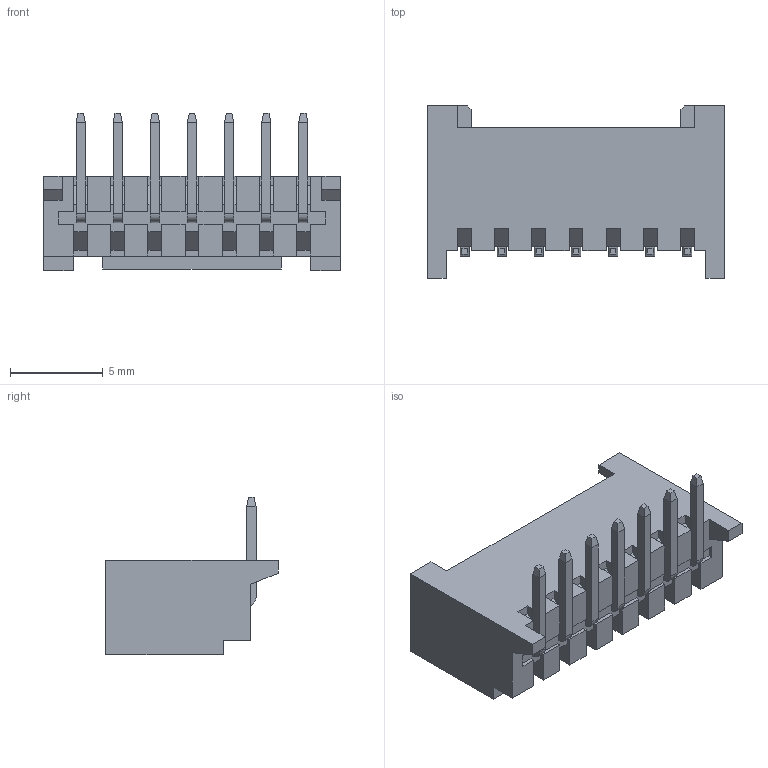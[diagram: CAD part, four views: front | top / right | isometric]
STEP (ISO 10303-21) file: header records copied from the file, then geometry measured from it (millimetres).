
FILE_DESCRIPTION(('CATIA V5 STEP Exchange'),'2;1');
FILE_NAME('F:\小黄\条形连接器\2.00系列\08--HY\NAW\HC-HY-7AWD-05（2.00 单排 定位弯针-HCTL）.stp','2025-09-25T03:13:38+00:00',('none'),('none'),'CATIA Version 5 Release 20 GA (IN-10)','CATIA V5 STEP AP203','none');
FILE_SCHEMA(('CONFIG_CONTROL_DESIGN'));
Length unit declared in the file: millimetre
Products named in the file (1): Part4
Bounding box: 16 x 9.3 x 8.5 mm (x, y, z)
Volume: 244.4 mm3; surface area: 846.2 mm2
Topology: 8 solids, 8 shells, 276 faces, 722 edges, 462 vertices
Faces by surface type: plane 269, cylinder 7
Entity records: 7495 total; most frequent: ORIENTED_EDGE 1444, CARTESIAN_POINT 1338, DIRECTION 944, EDGE_CURVE 722, VECTOR 680, LINE 680, VERTEX_POINT 462, EDGE_LOOP 290
